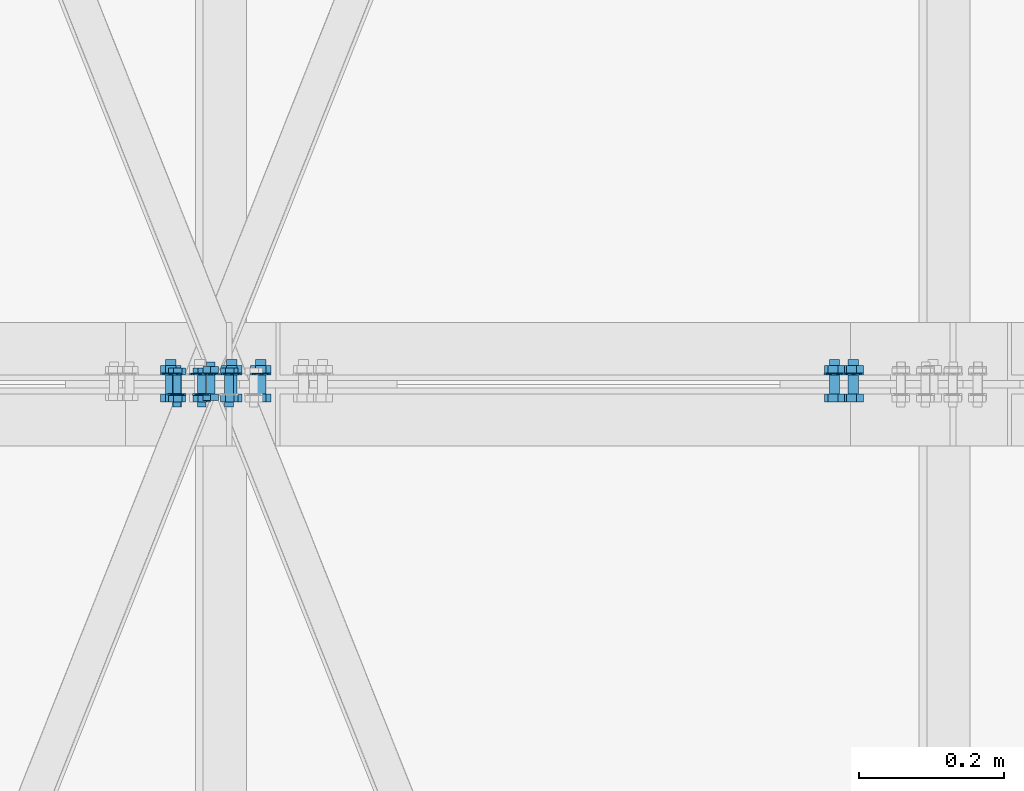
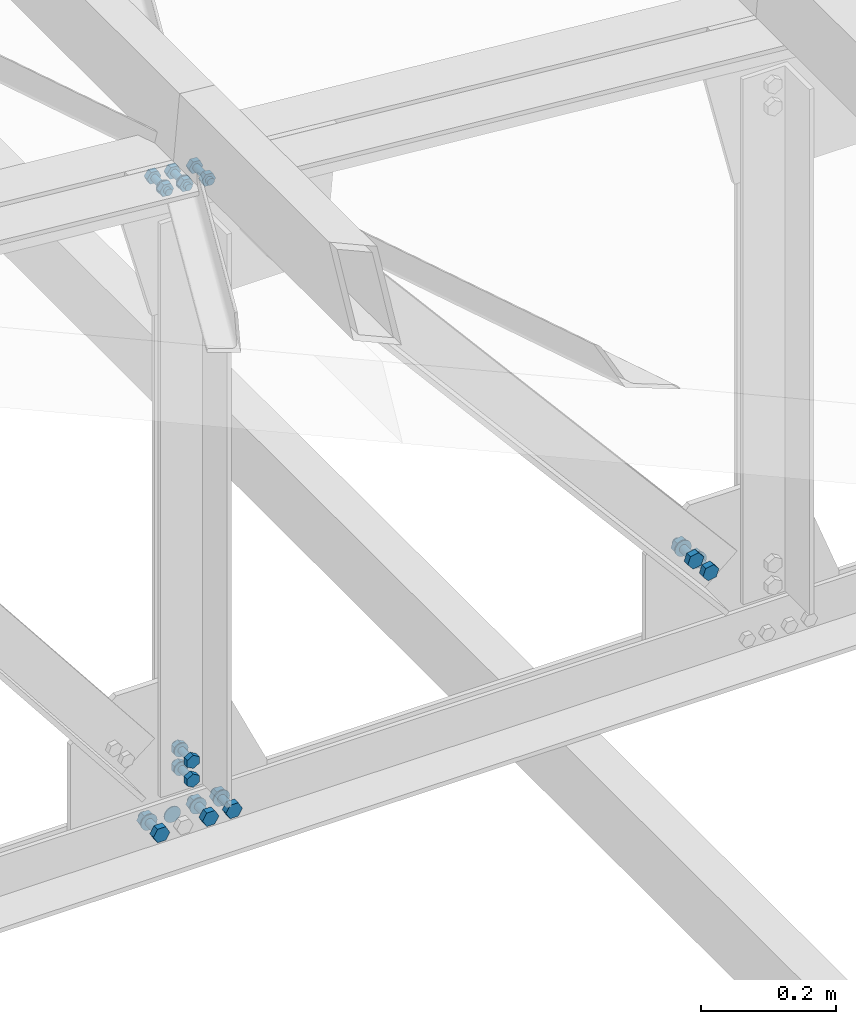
# One storey, part 108 of 251: 40 mechanical fasteners.
"""IFC4 building model written with IfcOpenShell, lengths in metres."""

from ifc_helpers import new_model, si_unit, frame, origin_with_axes, place, context, project, spatial, polyline, outline, extrude, type_object, element, save


model = new_model("IFC4")

# Units and contexts
model_context = context("Model", 3, precision=1e-05, world=origin_with_axes())
ifc_project = project(units=[si_unit("LENGTHUNIT", "METRE"), si_unit("AREAUNIT", "SQUARE_METRE"), si_unit("VOLUMEUNIT", "CUBIC_METRE"), si_unit("MASSUNIT", "GRAM", prefix="KILO"), si_unit("TIMEUNIT", "SECOND"), si_unit("PLANEANGLEUNIT", "RADIAN"), si_unit("SOLIDANGLEUNIT", "STERADIAN"), si_unit("THERMODYNAMICTEMPERATUREUNIT", "DEGREE_CELSIUS")], contexts=[model_context])

# Site, building, storey
placement_1 = place(None, origin_with_axes())
site = spatial("IfcSite", under=ifc_project, at=placement_1, Name="Italia", CompositionType="ELEMENT")
building = spatial("IfcBuilding", under=site, at=placement_1, Name="Deposito", CompositionType="ELEMENT")
storey = spatial("IfcBuildingStorey", under=building, at=placement_1, Name="Storey 0", CompositionType="ELEMENT", Elevation=0.0)

# Mechanical fasteners
mechanical_fastener_type_1 = type_object("IfcMechanicalFastenerType", Name="Reticolare 3", PredefinedType="BOLT")
placement_2 = place(placement_1, origin_with_axes())
mechanical_fastener_1_placement = place(placement_2, origin_with_axes())
element("IfcMechanicalFastener", 1, at=mechanical_fastener_1_placement, inside=storey, type_object=mechanical_fastener_type_1, Name="Reticolare 3", NominalDiameter=0.028, context=model_context, shape_type="SweptSolid", body=[
    extrude(outline(polyline([(0.0, 0.0), (-0.000476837, -0.00362349), (-0.00187492, -0.00699997), (-0.0041008, -0.00989962), (-0.00699997, -0.0121245), (-0.010376, -0.0135231), (-0.0139999, -0.0139999), (-0.0176239, -0.0135231), (-0.0209999, -0.0121245), (-0.0238991, -0.00989962), (-0.026125, -0.00699997), (-0.027523, -0.00362349), (-0.0279999, 0.0), (-0.027523, 0.00362349), (-0.026125, 0.00699997), (-0.0238991, 0.00989962), (-0.0209999, 0.0121245), (-0.0176239, 0.0135231), (-0.0139999, 0.0139999), (-0.010376, 0.0135231), (-0.00699997, 0.0121245), (-0.0041008, 0.00989962), (-0.00187492, 0.00699997), (-0.000476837, 0.00362349), (0.0, 0.0)])), frame((17.9996, 5.015, 5.009), z_axis=(0.0, -1.0, 0.0), x_axis=(1.0, 0.0, 0.0)), (0.0, 0.0, 1.0), 0.00199986),
])
mechanical_fastener_type_2 = type_object("IfcMechanicalFastenerType", Name="Reticolare 3", PredefinedType="BOLT")
mechanical_fastener_2_placement = place(placement_2, origin_with_axes())
element("IfcMechanicalFastener", 2, at=mechanical_fastener_2_placement, inside=storey, type_object=mechanical_fastener_type_2, Name="Reticolare 3", NominalDiameter=0.0139997, context=model_context, shape_type="SweptSolid", body=[
    extrude(outline(polyline([(0.0, 0.0), (-0.0139999, 0.0), (-0.0209999, 0.0121241), (-0.0139999, 0.0242486), (0.0, 0.0242486), (0.00699997, 0.0121241), (0.0, 0.0)])), frame((17.9526, 4.987, 4.99688), z_axis=(0.0, -1.0, 0.0), x_axis=(1.0, 0.0, 0.0)), (0.0, 0.0, 1.0), 0.0112),
])
mechanical_fastener_type_3 = type_object("IfcMechanicalFastenerType", Name="Reticolare 3", PredefinedType="BOLT")
mechanical_fastener_3_placement = place(placement_2, origin_with_axes())
element("IfcMechanicalFastener", 3, at=mechanical_fastener_3_placement, inside=storey, type_object=mechanical_fastener_type_3, Name="Reticolare 3", NominalDiameter=0.014, context=model_context, shape_type="SweptSolid", body=[
    extrude(outline(polyline([(0.0, 0.0), (-0.000238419, -0.0018115), (-0.000938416, -0.00349998), (-0.0020504, -0.00494957), (-0.00349998, -0.00606203), (-0.00518799, -0.00676155), (-0.00699997, -0.00699997), (-0.00881195, -0.00676155), (-0.0105, -0.00606203), (-0.0119495, -0.00494957), (-0.0130615, -0.00349998), (-0.0137615, -0.0018115), (-0.0139999, 0.0), (-0.0137615, 0.0018115), (-0.0130615, 0.00349998), (-0.0119495, 0.00494957), (-0.0105, 0.00606203), (-0.00881195, 0.00676155), (-0.00699997, 0.00699997), (-0.00518799, 0.00676155), (-0.00349998, 0.00606203), (-0.0020504, 0.00494957), (-0.000938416, 0.00349998), (-0.000238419, 0.0018115), (0.0, 0.0)])), frame((17.9526, 5.034, 5.009), z_axis=(0.0, -1.0, 0.0), x_axis=(1.0, 0.0, 0.0)), (0.0, 0.0, 1.0), 0.0469999),
])
mechanical_fastener_type_4 = type_object("IfcMechanicalFastenerType", Name="Reticolare 3", PredefinedType="BOLT")
mechanical_fastener_4_placement = place(placement_2, origin_with_axes())
element("IfcMechanicalFastener", 4, at=mechanical_fastener_4_placement, inside=storey, type_object=mechanical_fastener_type_4, Name="Reticolare 3", NominalDiameter=0.0139997, context=model_context, shape_type="SweptSolid", body=[
    extrude(outline(polyline([(0.0, 0.0), (-0.0139999, 0.0), (-0.0209999, 0.0121241), (-0.0139999, 0.0242486), (0.0, 0.0242486), (0.00699997, 0.0121241), (0.0, 0.0)])), frame((17.9526, 5.0262, 4.99688), z_axis=(0.0, -1.0, 0.0), x_axis=(1.0, 0.0, 0.0)), (0.0, 0.0, 1.0), 0.0112),
])
mechanical_fastener_type_5 = type_object("IfcMechanicalFastenerType", Name="Reticolare 3", PredefinedType="BOLT")
mechanical_fastener_5_placement = place(placement_2, origin_with_axes())
element("IfcMechanicalFastener", 5, at=mechanical_fastener_5_placement, inside=storey, type_object=mechanical_fastener_type_5, Name="Reticolare 3", NominalDiameter=0.028, context=model_context, shape_type="SweptSolid", body=[
    extrude(outline(polyline([(0.0, 0.0), (-0.000476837, -0.00362349), (-0.00187492, -0.00699997), (-0.0041008, -0.00989962), (-0.00699997, -0.0121245), (-0.010376, -0.0135231), (-0.0139999, -0.0139999), (-0.0176239, -0.0135231), (-0.0209999, -0.0121245), (-0.0238991, -0.00989962), (-0.026125, -0.00699997), (-0.027523, -0.00362349), (-0.0279999, 0.0), (-0.027523, 0.00362349), (-0.026125, 0.00699997), (-0.0238991, 0.00989962), (-0.0209999, 0.0121245), (-0.0176239, 0.0135231), (-0.0139999, 0.0139999), (-0.010376, 0.0135231), (-0.00699997, 0.0121245), (-0.0041008, 0.00989962), (-0.00187492, 0.00699997), (-0.000476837, 0.00362349), (0.0, 0.0)])), frame((17.9596, 5.015, 5.009), z_axis=(0.0, -1.0, 0.0), x_axis=(1.0, 0.0, 0.0)), (0.0, 0.0, 1.0), 0.00199986),
])
mechanical_fastener_type_6 = type_object("IfcMechanicalFastenerType", Name="Reticolare 3", PredefinedType="BOLT")
mechanical_fastener_6_placement = place(placement_2, origin_with_axes())
element("IfcMechanicalFastener", 6, at=mechanical_fastener_6_placement, inside=storey, type_object=mechanical_fastener_type_6, Name="Reticolare 3", NominalDiameter=0.0139997, context=model_context, shape_type="SweptSolid", body=[
    extrude(outline(polyline([(0.0, 0.0), (-0.0139999, 0.0), (-0.0209999, 0.0121241), (-0.0139999, 0.0242486), (0.0, 0.0242486), (0.00699997, 0.0121241), (0.0, 0.0)])), frame((18.0366, 4.987, 4.99688), z_axis=(0.0, -1.0, 0.0), x_axis=(1.0, 0.0, 0.0)), (0.0, 0.0, 1.0), 0.0112),
])
mechanical_fastener_type_7 = type_object("IfcMechanicalFastenerType", Name="Reticolare 3", PredefinedType="BOLT")
mechanical_fastener_7_placement = place(placement_2, origin_with_axes())
element("IfcMechanicalFastener", 7, at=mechanical_fastener_7_placement, inside=storey, type_object=mechanical_fastener_type_7, Name="Reticolare 3", NominalDiameter=0.014, context=model_context, shape_type="SweptSolid", body=[
    extrude(outline(polyline([(0.0, 0.0), (-0.000238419, -0.0018115), (-0.000938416, -0.00349998), (-0.0020504, -0.00494957), (-0.00349998, -0.00606203), (-0.00518799, -0.00676155), (-0.00699997, -0.00699997), (-0.00881195, -0.00676155), (-0.0105, -0.00606203), (-0.0119495, -0.00494957), (-0.0130615, -0.00349998), (-0.0137615, -0.0018115), (-0.0139999, 0.0), (-0.0137615, 0.0018115), (-0.0130615, 0.00349998), (-0.0119495, 0.00494957), (-0.0105, 0.00606203), (-0.00881195, 0.00676155), (-0.00699997, 0.00699997), (-0.00518799, 0.00676155), (-0.00349998, 0.00606203), (-0.0020504, 0.00494957), (-0.000938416, 0.00349998), (-0.000238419, 0.0018115), (0.0, 0.0)])), frame((18.0366, 5.034, 5.009), z_axis=(0.0, -1.0, 0.0), x_axis=(1.0, 0.0, 0.0)), (0.0, 0.0, 1.0), 0.0469999),
])
mechanical_fastener_type_8 = type_object("IfcMechanicalFastenerType", Name="Reticolare 3", PredefinedType="BOLT")
mechanical_fastener_8_placement = place(placement_2, origin_with_axes())
element("IfcMechanicalFastener", 8, at=mechanical_fastener_8_placement, inside=storey, type_object=mechanical_fastener_type_8, Name="Reticolare 3", NominalDiameter=0.0139997, context=model_context, shape_type="SweptSolid", body=[
    extrude(outline(polyline([(0.0, 0.0), (-0.0139999, 0.0), (-0.0209999, 0.0121241), (-0.0139999, 0.0242486), (0.0, 0.0242486), (0.00699997, 0.0121241), (0.0, 0.0)])), frame((18.0366, 5.0262, 4.99688), z_axis=(0.0, -1.0, 0.0), x_axis=(1.0, 0.0, 0.0)), (0.0, 0.0, 1.0), 0.0112),
])
mechanical_fastener_type_9 = type_object("IfcMechanicalFastenerType", Name="Reticolare 3", PredefinedType="BOLT")
mechanical_fastener_9_placement = place(placement_2, origin_with_axes())
element("IfcMechanicalFastener", 9, at=mechanical_fastener_9_placement, inside=storey, type_object=mechanical_fastener_type_9, Name="Reticolare 3", NominalDiameter=0.028, context=model_context, shape_type="SweptSolid", body=[
    extrude(outline(polyline([(0.0, 0.0), (-0.000476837, -0.00362349), (-0.00187492, -0.00699997), (-0.0041008, -0.00989962), (-0.00699997, -0.0121245), (-0.010376, -0.0135231), (-0.0139999, -0.0139999), (-0.0176239, -0.0135231), (-0.0209999, -0.0121245), (-0.0238991, -0.00989962), (-0.026125, -0.00699997), (-0.027523, -0.00362349), (-0.0279999, 0.0), (-0.027523, 0.00362349), (-0.026125, 0.00699997), (-0.0238991, 0.00989962), (-0.0209999, 0.0121245), (-0.0176239, 0.0135231), (-0.0139999, 0.0139999), (-0.010376, 0.0135231), (-0.00699997, 0.0121245), (-0.0041008, 0.00989962), (-0.00187492, 0.00699997), (-0.000476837, 0.00362349), (0.0, 0.0)])), frame((18.0436, 5.015, 5.009), z_axis=(0.0, -1.0, 0.0), x_axis=(1.0, 0.0, 0.0)), (0.0, 0.0, 1.0), 0.00199986),
])
mechanical_fastener_type_10 = type_object("IfcMechanicalFastenerType", Name="Reticolare 3", PredefinedType="BOLT")
mechanical_fastener_10_placement = place(placement_2, origin_with_axes())
element("IfcMechanicalFastener", 10, at=mechanical_fastener_10_placement, inside=storey, type_object=mechanical_fastener_type_10, Name="Reticolare 3", NominalDiameter=0.0139997, context=model_context, shape_type="SweptSolid", body=[
    extrude(outline(polyline([(0.0, 0.0), (-0.0139999, 0.0), (-0.0209999, 0.0121241), (-0.0139999, 0.0242486), (0.0, 0.0242486), (0.00699997, 0.0121241), (0.0, 0.0)])), frame((18.0766, 4.987, 4.99688), z_axis=(0.0, -1.0, 0.0), x_axis=(1.0, 0.0, 0.0)), (0.0, 0.0, 1.0), 0.0112),
])
mechanical_fastener_type_11 = type_object("IfcMechanicalFastenerType", Name="Reticolare 3", PredefinedType="BOLT")
mechanical_fastener_11_placement = place(placement_2, origin_with_axes())
element("IfcMechanicalFastener", 11, at=mechanical_fastener_11_placement, inside=storey, type_object=mechanical_fastener_type_11, Name="Reticolare 3", NominalDiameter=0.014, context=model_context, shape_type="SweptSolid", body=[
    extrude(outline(polyline([(0.0, 0.0), (-0.000238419, -0.0018115), (-0.000938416, -0.00349998), (-0.0020504, -0.00494957), (-0.00349998, -0.00606203), (-0.00518799, -0.00676155), (-0.00699997, -0.00699997), (-0.00881195, -0.00676155), (-0.0105, -0.00606203), (-0.0119495, -0.00494957), (-0.0130615, -0.00349998), (-0.0137615, -0.0018115), (-0.0139999, 0.0), (-0.0137615, 0.0018115), (-0.0130615, 0.00349998), (-0.0119495, 0.00494957), (-0.0105, 0.00606203), (-0.00881195, 0.00676155), (-0.00699997, 0.00699997), (-0.00518799, 0.00676155), (-0.00349998, 0.00606203), (-0.0020504, 0.00494957), (-0.000938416, 0.00349998), (-0.000238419, 0.0018115), (0.0, 0.0)])), frame((18.0766, 5.034, 5.009), z_axis=(0.0, -1.0, 0.0), x_axis=(1.0, 0.0, 0.0)), (0.0, 0.0, 1.0), 0.0469999),
])
mechanical_fastener_type_12 = type_object("IfcMechanicalFastenerType", Name="Reticolare 3", PredefinedType="BOLT")
mechanical_fastener_12_placement = place(placement_2, origin_with_axes())
element("IfcMechanicalFastener", 12, at=mechanical_fastener_12_placement, inside=storey, type_object=mechanical_fastener_type_12, Name="Reticolare 3", NominalDiameter=0.0139997, context=model_context, shape_type="SweptSolid", body=[
    extrude(outline(polyline([(0.0, 0.0), (-0.0139999, 0.0), (-0.0209999, 0.0121241), (-0.0139999, 0.0242486), (0.0, 0.0242486), (0.00699997, 0.0121241), (0.0, 0.0)])), frame((18.0766, 5.0262, 4.99688), z_axis=(0.0, -1.0, 0.0), x_axis=(1.0, 0.0, 0.0)), (0.0, 0.0, 1.0), 0.0112),
])
mechanical_fastener_type_13 = type_object("IfcMechanicalFastenerType", Name="Reticolare 3", PredefinedType="BOLT")
mechanical_fastener_13_placement = place(placement_2, origin_with_axes())
element("IfcMechanicalFastener", 13, at=mechanical_fastener_13_placement, inside=storey, type_object=mechanical_fastener_type_13, Name="Reticolare 3", NominalDiameter=0.028, context=model_context, shape_type="SweptSolid", body=[
    extrude(outline(polyline([(0.0, 0.0), (-0.000476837, -0.00362349), (-0.00187492, -0.00699997), (-0.0041008, -0.00989962), (-0.00699997, -0.0121245), (-0.010376, -0.0135231), (-0.0139999, -0.0139999), (-0.0176239, -0.0135231), (-0.0209999, -0.0121245), (-0.0238991, -0.00989962), (-0.026125, -0.00699997), (-0.027523, -0.00362349), (-0.0279999, 0.0), (-0.027523, 0.00362349), (-0.026125, 0.00699997), (-0.0238991, 0.00989962), (-0.0209999, 0.0121245), (-0.0176239, 0.0135231), (-0.0139999, 0.0139999), (-0.010376, 0.0135231), (-0.00699997, 0.0121245), (-0.0041008, 0.00989962), (-0.00187492, 0.00699997), (-0.000476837, 0.00362349), (0.0, 0.0)])), frame((18.0836, 5.015, 5.009), z_axis=(0.0, -1.0, 0.0), x_axis=(1.0, 0.0, 0.0)), (0.0, 0.0, 1.0), 0.00199986),
])
mechanical_fastener_type_14 = type_object("IfcMechanicalFastenerType", Name="Reticolare 3", PredefinedType="BOLT")
mechanical_fastener_14_placement = place(placement_2, origin_with_axes())
element("IfcMechanicalFastener", 14, at=mechanical_fastener_14_placement, inside=storey, type_object=mechanical_fastener_type_14, Name="Reticolare 3", NominalDiameter=0.0120001, context=model_context, shape_type="SweptSolid", body=[
    extrude(outline(polyline([(0.0, 0.0), (0.0, -0.0120001), (-0.0103931, -0.0180001), (-0.0207863, -0.0120001), (-0.0207863, 0.0), (-0.0103931, 0.00600004), (0.0, 0.0)])), frame((18.011, 4.987, 5.09253), z_axis=(0.0, -1.0, 0.0), x_axis=(1.0, 0.0, 0.0)), (0.0, 0.0, 1.0), 0.00960016),
])
mechanical_fastener_type_15 = type_object("IfcMechanicalFastenerType", Name="Reticolare 3", PredefinedType="BOLT")
mechanical_fastener_15_placement = place(placement_2, origin_with_axes())
element("IfcMechanicalFastener", 15, at=mechanical_fastener_15_placement, inside=storey, type_object=mechanical_fastener_type_15, Name="Reticolare 3", NominalDiameter=0.012, context=model_context, shape_type="SweptSolid", body=[
    extrude(outline(polyline([(0.0, 0.0), (-0.000204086, -0.00155306), (-0.000804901, -0.00299978), (-0.00175858, -0.00424242), (-0.00300026, -0.00519609), (-0.00444794, -0.00579548), (-0.00600052, -0.00600004), (-0.0075531, -0.00579548), (-0.00900078, -0.00519609), (-0.0102425, -0.00424242), (-0.0111961, -0.00299978), (-0.011797, -0.00155306), (-0.012001, 0.0), (-0.011797, 0.00155306), (-0.0111961, 0.00299978), (-0.0102425, 0.00424242), (-0.00900078, 0.00519609), (-0.0075531, 0.00579548), (-0.00600052, 0.00600004), (-0.00444794, 0.00579548), (-0.00300026, 0.00519609), (-0.00175858, 0.00424242), (-0.000804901, 0.00299978), (-0.000204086, 0.00155306), (0.0, 0.0)])), frame((18.0066, 5.031, 5.08653), z_axis=(0.0, -1.0, 0.0), x_axis=(1.0, 0.0, 0.0)), (0.0, 0.0, 1.0), 0.0440001),
])
mechanical_fastener_type_16 = type_object("IfcMechanicalFastenerType", Name="Reticolare 3", PredefinedType="BOLT")
mechanical_fastener_16_placement = place(placement_2, origin_with_axes())
element("IfcMechanicalFastener", 16, at=mechanical_fastener_16_placement, inside=storey, type_object=mechanical_fastener_type_16, Name="Reticolare 3", NominalDiameter=0.0120001, context=model_context, shape_type="SweptSolid", body=[
    extrude(outline(polyline([(0.0, 0.0), (0.0, -0.0120001), (-0.0103931, -0.0180001), (-0.0207863, -0.0120001), (-0.0207863, 0.0), (-0.0103931, 0.00600004), (0.0, 0.0)])), frame((18.011, 5.0246, 5.09253), z_axis=(0.0, -1.0, 0.0), x_axis=(1.0, 0.0, 0.0)), (0.0, 0.0, 1.0), 0.00960016),
])
mechanical_fastener_type_17 = type_object("IfcMechanicalFastenerType", Name="Reticolare 3", PredefinedType="BOLT")
mechanical_fastener_17_placement = place(placement_2, origin_with_axes())
element("IfcMechanicalFastener", 17, at=mechanical_fastener_17_placement, inside=storey, type_object=mechanical_fastener_type_17, Name="Reticolare 3", NominalDiameter=0.024, context=model_context, shape_type="SweptSolid", body=[
    extrude(outline(polyline([(0.0, 0.0), (-0.000408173, -0.00310564), (-0.00160599, -0.00600004), (-0.00351334, -0.00848532), (-0.00599861, -0.0103922), (-0.00889397, -0.011591), (-0.0119991, -0.0120001), (-0.0151043, -0.011591), (-0.0179996, -0.0103922), (-0.0204849, -0.00848532), (-0.0223923, -0.00600004), (-0.0235901, -0.00310564), (-0.0239983, 0.0), (-0.0235901, 0.00310564), (-0.0223923, 0.00600004), (-0.0204849, 0.00848532), (-0.0179996, 0.0103922), (-0.0151043, 0.011591), (-0.0119991, 0.0120001), (-0.00889397, 0.011591), (-0.00599861, 0.0103922), (-0.00351334, 0.00848532), (-0.00160599, 0.00600004), (-0.000408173, 0.00310564), (0.0, 0.0)])), frame((18.0126, 5.015, 5.08653), z_axis=(0.0, -1.0, 0.0), x_axis=(1.0, 0.0, 0.0)), (0.0, 0.0, 1.0), 0.00199986),
])
mechanical_fastener_type_18 = type_object("IfcMechanicalFastenerType", Name="Reticolare 3", PredefinedType="BOLT")
mechanical_fastener_18_placement = place(placement_2, origin_with_axes())
element("IfcMechanicalFastener", 18, at=mechanical_fastener_18_placement, inside=storey, type_object=mechanical_fastener_type_18, Name="Reticolare 3", NominalDiameter=0.0120001, context=model_context, shape_type="SweptSolid", body=[
    extrude(outline(polyline([(0.0, 0.0), (0.0, -0.0120001), (-0.0103931, -0.0180001), (-0.0207863, -0.0120001), (-0.0207863, 0.0), (-0.0103931, 0.00600004), (0.0, 0.0)])), frame((18.011, 4.987, 5.12653), z_axis=(0.0, -1.0, 0.0), x_axis=(1.0, 0.0, 0.0)), (0.0, 0.0, 1.0), 0.00960016),
])
mechanical_fastener_type_19 = type_object("IfcMechanicalFastenerType", Name="Reticolare 3", PredefinedType="BOLT")
mechanical_fastener_19_placement = place(placement_2, origin_with_axes())
element("IfcMechanicalFastener", 19, at=mechanical_fastener_19_placement, inside=storey, type_object=mechanical_fastener_type_19, Name="Reticolare 3", NominalDiameter=0.012, context=model_context, shape_type="SweptSolid", body=[
    extrude(outline(polyline([(0.0, 0.0), (-0.000204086, -0.00155306), (-0.000804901, -0.00299978), (-0.00175858, -0.00424242), (-0.00300026, -0.00519609), (-0.00444794, -0.00579548), (-0.00600052, -0.00600004), (-0.0075531, -0.00579548), (-0.00900078, -0.00519609), (-0.0102425, -0.00424242), (-0.0111961, -0.00299978), (-0.011797, -0.00155306), (-0.012001, 0.0), (-0.011797, 0.00155306), (-0.0111961, 0.00299978), (-0.0102425, 0.00424242), (-0.00900078, 0.00519609), (-0.0075531, 0.00579548), (-0.00600052, 0.00600004), (-0.00444794, 0.00579548), (-0.00300026, 0.00519609), (-0.00175858, 0.00424242), (-0.000804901, 0.00299978), (-0.000204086, 0.00155306), (0.0, 0.0)])), frame((18.0066, 5.031, 5.12053), z_axis=(0.0, -1.0, 0.0), x_axis=(1.0, 0.0, 0.0)), (0.0, 0.0, 1.0), 0.0440001),
])
mechanical_fastener_type_20 = type_object("IfcMechanicalFastenerType", Name="Reticolare 3", PredefinedType="BOLT")
mechanical_fastener_20_placement = place(placement_2, origin_with_axes())
element("IfcMechanicalFastener", 20, at=mechanical_fastener_20_placement, inside=storey, type_object=mechanical_fastener_type_20, Name="Reticolare 3", NominalDiameter=0.0120001, context=model_context, shape_type="SweptSolid", body=[
    extrude(outline(polyline([(0.0, 0.0), (0.0, -0.0120001), (-0.0103931, -0.0180001), (-0.0207863, -0.0120001), (-0.0207863, 0.0), (-0.0103931, 0.00600004), (0.0, 0.0)])), frame((18.011, 5.0246, 5.12653), z_axis=(0.0, -1.0, 0.0), x_axis=(1.0, 0.0, 0.0)), (0.0, 0.0, 1.0), 0.00960016),
])
mechanical_fastener_type_21 = type_object("IfcMechanicalFastenerType", Name="Reticolare 3", PredefinedType="BOLT")
mechanical_fastener_21_placement = place(placement_2, origin_with_axes())
element("IfcMechanicalFastener", 21, at=mechanical_fastener_21_placement, inside=storey, type_object=mechanical_fastener_type_21, Name="Reticolare 3", NominalDiameter=0.024, context=model_context, shape_type="SweptSolid", body=[
    extrude(outline(polyline([(0.0, 0.0), (-0.000408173, -0.00310564), (-0.00160599, -0.00600004), (-0.00351334, -0.00848532), (-0.00599861, -0.0103922), (-0.00889397, -0.011591), (-0.0119991, -0.0120001), (-0.0151043, -0.011591), (-0.0179996, -0.0103922), (-0.0204849, -0.00848532), (-0.0223923, -0.00600004), (-0.0235901, -0.00310564), (-0.0239983, 0.0), (-0.0235901, 0.00310564), (-0.0223923, 0.00600004), (-0.0204849, 0.00848532), (-0.0179996, 0.0103922), (-0.0151043, 0.011591), (-0.0119991, 0.0120001), (-0.00889397, 0.011591), (-0.00599861, 0.0103922), (-0.00351334, 0.00848532), (-0.00160599, 0.00600004), (-0.000408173, 0.00310564), (0.0, 0.0)])), frame((18.0126, 5.015, 5.12053), z_axis=(0.0, -1.0, 0.0), x_axis=(1.0, 0.0, 0.0)), (0.0, 0.0, 1.0), 0.00199986),
])
mechanical_fastener_type_22 = type_object("IfcMechanicalFastenerType", Name="Reticolare 3", PredefinedType="BOLT")
mechanical_fastener_22_placement = place(placement_2, origin_with_axes())
element("IfcMechanicalFastener", 22, at=mechanical_fastener_22_placement, inside=storey, type_object=mechanical_fastener_type_22, Name="Reticolare 3", NominalDiameter=0.0139996, context=model_context, shape_type="SweptSolid", body=[
    extrude(outline(polyline([(0.0, 0.0), (-0.00905609, 0.0106759), (-0.00433922, 0.0238571), (0.00943565, 0.0263624), (0.0184917, 0.0156865), (0.0137749, 0.0025053), (0.0, 0.0)])), frame((18.8804, 4.987, 5.1407), z_axis=(0.0, -1.0, 0.0), x_axis=(1.0, 0.0, 0.0)), (0.0, 0.0, 1.0), 0.0112),
])
mechanical_fastener_type_23 = type_object("IfcMechanicalFastenerType", Name="Reticolare 3", PredefinedType="BOLT")
mechanical_fastener_23_placement = place(placement_2, origin_with_axes())
element("IfcMechanicalFastener", 23, at=mechanical_fastener_23_placement, inside=storey, type_object=mechanical_fastener_type_23, Name="Reticolare 3", NominalDiameter=0.014, context=model_context, shape_type="SweptSolid", body=[
    extrude(outline(polyline([(0.0, 0.0), (-0.000238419, -0.0018115), (-0.000938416, -0.00349998), (-0.0020504, -0.00494957), (-0.00349998, -0.00606203), (-0.00518799, -0.00676155), (-0.00699997, -0.00699997), (-0.00881195, -0.00676155), (-0.0105, -0.00606203), (-0.0119495, -0.00494957), (-0.0130615, -0.00349998), (-0.0137615, -0.0018115), (-0.0139999, 0.0), (-0.0137615, 0.0018115), (-0.0130615, 0.00349998), (-0.0119495, 0.00494957), (-0.0105, 0.00606203), (-0.00881195, 0.00676155), (-0.00699997, 0.00699997), (-0.00518799, 0.00676155), (-0.00349998, 0.00606203), (-0.0020504, 0.00494957), (-0.000938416, 0.00349998), (-0.000238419, 0.0018115), (0.0, 0.0)])), frame((18.8921, 5.034, 5.15388), z_axis=(0.0, -1.0, 0.0), x_axis=(1.0, 0.0, 0.0)), (0.0, 0.0, 1.0), 0.0469999),
])
mechanical_fastener_type_24 = type_object("IfcMechanicalFastenerType", Name="Reticolare 3", PredefinedType="BOLT")
mechanical_fastener_24_placement = place(placement_2, origin_with_axes())
element("IfcMechanicalFastener", 24, at=mechanical_fastener_24_placement, inside=storey, type_object=mechanical_fastener_type_24, Name="Reticolare 3", NominalDiameter=0.0139996, context=model_context, shape_type="SweptSolid", body=[
    extrude(outline(polyline([(0.0, 0.0), (-0.00905609, 0.0106759), (-0.00433922, 0.0238571), (0.00943565, 0.0263624), (0.0184917, 0.0156865), (0.0137749, 0.0025053), (0.0, 0.0)])), frame((18.8804, 5.0262, 5.1407), z_axis=(0.0, -1.0, 0.0), x_axis=(1.0, 0.0, 0.0)), (0.0, 0.0, 1.0), 0.0112),
])
mechanical_fastener_type_25 = type_object("IfcMechanicalFastenerType", Name="Reticolare 3", PredefinedType="BOLT")
mechanical_fastener_25_placement = place(placement_2, origin_with_axes())
element("IfcMechanicalFastener", 25, at=mechanical_fastener_25_placement, inside=storey, type_object=mechanical_fastener_type_25, Name="Reticolare 3", NominalDiameter=0.028, context=model_context, shape_type="SweptSolid", body=[
    extrude(outline(polyline([(0.0, 0.0), (-0.000476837, -0.00362349), (-0.00187492, -0.00699997), (-0.0041008, -0.00989962), (-0.00699997, -0.0121245), (-0.010376, -0.0135231), (-0.0139999, -0.0139999), (-0.0176239, -0.0135231), (-0.0209999, -0.0121245), (-0.0238991, -0.00989962), (-0.026125, -0.00699997), (-0.027523, -0.00362349), (-0.0279999, 0.0), (-0.027523, 0.00362349), (-0.026125, 0.00699997), (-0.0238991, 0.00989962), (-0.0209999, 0.0121245), (-0.0176239, 0.0135231), (-0.0139999, 0.0139999), (-0.010376, 0.0135231), (-0.00699997, 0.0121245), (-0.0041008, 0.00989962), (-0.00187492, 0.00699997), (-0.000476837, 0.00362349), (0.0, 0.0)])), frame((18.8991, 5.015, 5.15388), z_axis=(0.0, -1.0, 0.0), x_axis=(1.0, 0.0, 0.0)), (0.0, 0.0, 1.0), 0.00199986),
])
mechanical_fastener_type_26 = type_object("IfcMechanicalFastenerType", Name="Reticolare 3", PredefinedType="BOLT")
mechanical_fastener_26_placement = place(placement_2, origin_with_axes())
element("IfcMechanicalFastener", 26, at=mechanical_fastener_26_placement, inside=storey, type_object=mechanical_fastener_type_26, Name="Reticolare 3", NominalDiameter=0.013999, context=model_context, shape_type="SweptSolid", body=[
    extrude(outline(polyline([(0.0, 0.0), (-0.009058, 0.0106759), (-0.00433922, 0.0238571), (0.00943375, 0.0263624), (0.0184917, 0.0156865), (0.013773, 0.0025053), (0.0, 0.0)])), frame((18.8545, 4.987, 5.1712), z_axis=(0.0, -1.0, 0.0), x_axis=(1.0, 0.0, 0.0)), (0.0, 0.0, 1.0), 0.0112),
])
mechanical_fastener_type_27 = type_object("IfcMechanicalFastenerType", Name="Reticolare 3", PredefinedType="BOLT")
mechanical_fastener_27_placement = place(placement_2, origin_with_axes())
element("IfcMechanicalFastener", 27, at=mechanical_fastener_27_placement, inside=storey, type_object=mechanical_fastener_type_27, Name="Reticolare 3", NominalDiameter=0.014, context=model_context, shape_type="SweptSolid", body=[
    extrude(outline(polyline([(0.0, 0.0), (-0.000238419, -0.0018115), (-0.000938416, -0.00349998), (-0.0020504, -0.00494957), (-0.00349998, -0.00606203), (-0.00518799, -0.00676155), (-0.00699997, -0.00699997), (-0.00881195, -0.00676155), (-0.0105, -0.00606203), (-0.0119495, -0.00494957), (-0.0130615, -0.00349998), (-0.0137615, -0.0018115), (-0.0139999, 0.0), (-0.0137615, 0.0018115), (-0.0130615, 0.00349998), (-0.0119495, 0.00494957), (-0.0105, 0.00606203), (-0.00881195, 0.00676155), (-0.00699997, 0.00699997), (-0.00518799, 0.00676155), (-0.00349998, 0.00606203), (-0.0020504, 0.00494957), (-0.000938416, 0.00349998), (-0.000238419, 0.0018115), (0.0, 0.0)])), frame((18.8662, 5.034, 5.18438), z_axis=(0.0, -1.0, 0.0), x_axis=(1.0, 0.0, 0.0)), (0.0, 0.0, 1.0), 0.0469999),
])
mechanical_fastener_type_28 = type_object("IfcMechanicalFastenerType", Name="Reticolare 3", PredefinedType="BOLT")
mechanical_fastener_28_placement = place(placement_2, origin_with_axes())
element("IfcMechanicalFastener", 28, at=mechanical_fastener_28_placement, inside=storey, type_object=mechanical_fastener_type_28, Name="Reticolare 3", NominalDiameter=0.013999, context=model_context, shape_type="SweptSolid", body=[
    extrude(outline(polyline([(0.0, 0.0), (-0.009058, 0.0106759), (-0.00433922, 0.0238571), (0.00943375, 0.0263624), (0.0184917, 0.0156865), (0.013773, 0.0025053), (0.0, 0.0)])), frame((18.8545, 5.0262, 5.1712), z_axis=(0.0, -1.0, 0.0), x_axis=(1.0, 0.0, 0.0)), (0.0, 0.0, 1.0), 0.0112),
])
mechanical_fastener_type_29 = type_object("IfcMechanicalFastenerType", Name="Reticolare 3", PredefinedType="BOLT")
mechanical_fastener_29_placement = place(placement_2, origin_with_axes())
element("IfcMechanicalFastener", 29, at=mechanical_fastener_29_placement, inside=storey, type_object=mechanical_fastener_type_29, Name="Reticolare 3", NominalDiameter=0.028, context=model_context, shape_type="SweptSolid", body=[
    extrude(outline(polyline([(0.0, 0.0), (-0.000476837, -0.00362349), (-0.00187492, -0.00699997), (-0.0041008, -0.00989962), (-0.00699997, -0.0121245), (-0.010376, -0.0135231), (-0.0139999, -0.0139999), (-0.0176239, -0.0135231), (-0.0209999, -0.0121245), (-0.0238991, -0.00989962), (-0.026125, -0.00699997), (-0.027523, -0.00362349), (-0.0279999, 0.0), (-0.027523, 0.00362349), (-0.026125, 0.00699997), (-0.0238991, 0.00989962), (-0.0209999, 0.0121245), (-0.0176239, 0.0135231), (-0.0139999, 0.0139999), (-0.010376, 0.0135231), (-0.00699997, 0.0121245), (-0.0041008, 0.00989962), (-0.00187492, 0.00699997), (-0.000476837, 0.00362349), (0.0, 0.0)])), frame((18.8732, 5.015, 5.18438), z_axis=(0.0, -1.0, 0.0), x_axis=(1.0, 0.0, 0.0)), (0.0, 0.0, 1.0), 0.00199986),
])
mechanical_fastener_type_30 = type_object("IfcMechanicalFastenerType", Name="Reticolare 3", PredefinedType="BOLT")
mechanical_fastener_30_placement = place(placement_2, origin_with_axes())
element("IfcMechanicalFastener", 30, at=mechanical_fastener_30_placement, inside=storey, type_object=mechanical_fastener_type_30, Name="Reticolare 3", NominalDiameter=0.011999, context=model_context, shape_type="SweptSolid", body=[
    extrude(outline(polyline([(0.0, 0.0), (0.0119534, 0.00104618), (0.018837, -0.00878382), (0.0137653, -0.0196595), (0.00181198, -0.0207052), (-0.00507164, -0.0108757), (0.0, 0.0)])), frame((17.995, 5.013, 6.17882), z_axis=(0.0, 1.0, 0.0), x_axis=(-1.0, 0.0, 0.0)), (0.0, 0.0, 1.0), 0.00960016),
])
mechanical_fastener_type_31 = type_object("IfcMechanicalFastenerType", Name="Reticolare 3", PredefinedType="BOLT")
mechanical_fastener_31_placement = place(placement_2, origin_with_axes())
element("IfcMechanicalFastener", 31, at=mechanical_fastener_31_placement, inside=storey, type_object=mechanical_fastener_type_31, Name="Reticolare 3", NominalDiameter=0.012, context=model_context, shape_type="SweptSolid", body=[
    extrude(outline(polyline([(0.0, 0.0), (-0.000204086, -0.00155306), (-0.000804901, -0.00299978), (-0.00175858, -0.00424242), (-0.00300026, -0.00519609), (-0.00444794, -0.00579548), (-0.00600052, -0.00600004), (-0.0075531, -0.00579548), (-0.00900078, -0.00519609), (-0.0102425, -0.00424242), (-0.0111961, -0.00299978), (-0.011797, -0.00155306), (-0.012001, 0.0), (-0.011797, 0.00155306), (-0.0111961, 0.00299978), (-0.0102425, 0.00424242), (-0.00900078, 0.00519609), (-0.0075531, 0.00579548), (-0.00600052, 0.00600004), (-0.00444794, 0.00579548), (-0.00300026, 0.00519609), (-0.00175858, 0.00424242), (-0.000804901, 0.00299978), (-0.000204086, 0.00155306), (0.0, 0.0)])), frame((17.9821, 4.969, 6.16899), z_axis=(0.0, 1.0, 0.0), x_axis=(-1.0, 0.0, 0.0)), (0.0, 0.0, 1.0), 0.0440001),
])
mechanical_fastener_type_32 = type_object("IfcMechanicalFastenerType", Name="Reticolare 3", PredefinedType="BOLT")
mechanical_fastener_32_placement = place(placement_2, origin_with_axes())
element("IfcMechanicalFastener", 32, at=mechanical_fastener_32_placement, inside=storey, type_object=mechanical_fastener_type_32, Name="Reticolare 3", NominalDiameter=0.011999, context=model_context, shape_type="SweptSolid", body=[
    extrude(outline(polyline([(0.0, 0.0), (0.0119534, 0.00104618), (0.018837, -0.00878382), (0.0137653, -0.0196595), (0.00181198, -0.0207052), (-0.00507164, -0.0108757), (0.0, 0.0)])), frame((17.995, 4.9754, 6.17882), z_axis=(0.0, 1.0, 0.0), x_axis=(-1.0, 0.0, 0.0)), (0.0, 0.0, 1.0), 0.00960016),
])
mechanical_fastener_type_33 = type_object("IfcMechanicalFastenerType", Name="Reticolare 3", PredefinedType="BOLT")
mechanical_fastener_33_placement = place(placement_2, origin_with_axes())
element("IfcMechanicalFastener", 33, at=mechanical_fastener_33_placement, inside=storey, type_object=mechanical_fastener_type_33, Name="Reticolare 3", NominalDiameter=0.024, context=model_context, shape_type="SweptSolid", body=[
    extrude(outline(polyline([(0.0, 0.0), (-0.000408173, -0.00310564), (-0.00160599, -0.00600004), (-0.00351334, -0.00848532), (-0.00599861, -0.0103922), (-0.00889397, -0.011591), (-0.0119991, -0.0120001), (-0.0151043, -0.011591), (-0.0179996, -0.0103922), (-0.0204849, -0.00848532), (-0.0223923, -0.00600004), (-0.0235901, -0.00310564), (-0.0239983, 0.0), (-0.0235901, 0.00310564), (-0.0223923, 0.00600004), (-0.0204849, 0.00848532), (-0.0179996, 0.0103922), (-0.0151043, 0.011591), (-0.0119991, 0.0120001), (-0.00889397, 0.011591), (-0.00599861, 0.0103922), (-0.00351334, 0.00848532), (-0.00160599, 0.00600004), (-0.000408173, 0.00310564), (0.0, 0.0)])), frame((17.9761, 4.985, 6.16899), z_axis=(0.0, 1.0, 0.0), x_axis=(-1.0, 0.0, 0.0)), (0.0, 0.0, 1.0), 0.00199986),
])
mechanical_fastener_type_34 = type_object("IfcMechanicalFastenerType", Name="Reticolare 3", PredefinedType="BOLT")
mechanical_fastener_34_placement = place(placement_2, origin_with_axes())
element("IfcMechanicalFastener", 34, at=mechanical_fastener_34_placement, inside=storey, type_object=mechanical_fastener_type_34, Name="Reticolare 3", NominalDiameter=0.011999, context=model_context, shape_type="SweptSolid", body=[
    extrude(outline(polyline([(0.0, 0.0), (0.0119534, 0.0010457), (0.018837, -0.00878429), (0.0137653, -0.01966), (0.00181198, -0.0207057), (-0.00507164, -0.0108757), (0.0, 0.0)])), frame((17.9611, 5.013, 6.18179), z_axis=(0.0, 1.0, 0.0), x_axis=(-1.0, 0.0, 0.0)), (0.0, 0.0, 1.0), 0.00960016),
])
mechanical_fastener_type_35 = type_object("IfcMechanicalFastenerType", Name="Reticolare 3", PredefinedType="BOLT")
mechanical_fastener_35_placement = place(placement_2, origin_with_axes())
element("IfcMechanicalFastener", 35, at=mechanical_fastener_35_placement, inside=storey, type_object=mechanical_fastener_type_35, Name="Reticolare 3", NominalDiameter=0.012, context=model_context, shape_type="SweptSolid", body=[
    extrude(outline(polyline([(0.0, 0.0), (-0.000204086, -0.00155306), (-0.000804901, -0.00299978), (-0.00175858, -0.00424242), (-0.00300026, -0.00519609), (-0.00444794, -0.00579548), (-0.00600052, -0.00600004), (-0.0075531, -0.00579548), (-0.00900078, -0.00519609), (-0.0102425, -0.00424242), (-0.0111961, -0.00299978), (-0.011797, -0.00155306), (-0.012001, 0.0), (-0.011797, 0.00155306), (-0.0111961, 0.00299978), (-0.0102425, 0.00424242), (-0.00900078, 0.00519609), (-0.0075531, 0.00579548), (-0.00600052, 0.00600004), (-0.00444794, 0.00579548), (-0.00300026, 0.00519609), (-0.00175858, 0.00424242), (-0.000804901, 0.00299978), (-0.000204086, 0.00155306), (0.0, 0.0)])), frame((17.9482, 4.969, 6.17196), z_axis=(0.0, 1.0, 0.0), x_axis=(-1.0, 0.0, 0.0)), (0.0, 0.0, 1.0), 0.0440001),
])
mechanical_fastener_type_36 = type_object("IfcMechanicalFastenerType", Name="Reticolare 3", PredefinedType="BOLT")
mechanical_fastener_36_placement = place(placement_2, origin_with_axes())
element("IfcMechanicalFastener", 36, at=mechanical_fastener_36_placement, inside=storey, type_object=mechanical_fastener_type_36, Name="Reticolare 3", NominalDiameter=0.011999, context=model_context, shape_type="SweptSolid", body=[
    extrude(outline(polyline([(0.0, 0.0), (0.0119534, 0.0010457), (0.018837, -0.00878429), (0.0137653, -0.01966), (0.00181198, -0.0207057), (-0.00507164, -0.0108757), (0.0, 0.0)])), frame((17.9611, 4.9754, 6.18179), z_axis=(0.0, 1.0, 0.0), x_axis=(-1.0, 0.0, 0.0)), (0.0, 0.0, 1.0), 0.00960016),
])
mechanical_fastener_type_37 = type_object("IfcMechanicalFastenerType", Name="Reticolare 3", PredefinedType="BOLT")
mechanical_fastener_37_placement = place(placement_2, origin_with_axes())
element("IfcMechanicalFastener", 37, at=mechanical_fastener_37_placement, inside=storey, type_object=mechanical_fastener_type_37, Name="Reticolare 3", NominalDiameter=0.024, context=model_context, shape_type="SweptSolid", body=[
    extrude(outline(polyline([(0.0, 0.0), (-0.000408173, -0.00310564), (-0.00160599, -0.00600004), (-0.00351334, -0.00848532), (-0.00599861, -0.0103922), (-0.00889397, -0.011591), (-0.0119991, -0.0120001), (-0.0151043, -0.011591), (-0.0179996, -0.0103922), (-0.0204849, -0.00848532), (-0.0223923, -0.00600004), (-0.0235901, -0.00310564), (-0.0239983, 0.0), (-0.0235901, 0.00310564), (-0.0223923, 0.00600004), (-0.0204849, 0.00848532), (-0.0179996, 0.0103922), (-0.0151043, 0.011591), (-0.0119991, 0.0120001), (-0.00889397, 0.011591), (-0.00599861, 0.0103922), (-0.00351334, 0.00848532), (-0.00160599, 0.00600004), (-0.000408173, 0.00310564), (0.0, 0.0)])), frame((17.9422, 4.985, 6.17196), z_axis=(0.0, 1.0, 0.0), x_axis=(-1.0, 0.0, 0.0)), (0.0, 0.0, 1.0), 0.00199986),
])
mechanical_fastener_type_38 = type_object("IfcMechanicalFastenerType", Name="Reticolare 3", PredefinedType="BOLT")
mechanical_fastener_38_placement = place(placement_2, origin_with_axes())
element("IfcMechanicalFastener", 38, at=mechanical_fastener_38_placement, inside=storey, type_object=mechanical_fastener_type_38, Name="Reticolare 3", NominalDiameter=0.011999, context=model_context, shape_type="SweptSolid", body=[
    extrude(outline(polyline([(0.0, 0.0), (0.0119534, 0.0010457), (0.018837, -0.00878429), (0.0137653, -0.01966), (0.00181007, -0.0207057), (-0.00507164, -0.0108757), (0.0, 0.0)])), frame((18.0328, 5.013, 6.17551), z_axis=(0.0, 1.0, 0.0), x_axis=(-1.0, 0.0, 0.0)), (0.0, 0.0, 1.0), 0.00960016),
])
mechanical_fastener_type_39 = type_object("IfcMechanicalFastenerType", Name="Reticolare 3", PredefinedType="BOLT")
mechanical_fastener_39_placement = place(placement_2, origin_with_axes())
element("IfcMechanicalFastener", 39, at=mechanical_fastener_39_placement, inside=storey, type_object=mechanical_fastener_type_39, Name="Reticolare 3", NominalDiameter=0.012, context=model_context, shape_type="SweptSolid", body=[
    extrude(outline(polyline([(0.0, 0.0), (-0.000204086, -0.00155306), (-0.000804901, -0.00299978), (-0.00175858, -0.00424242), (-0.00300026, -0.00519609), (-0.00444794, -0.00579548), (-0.00600052, -0.00600004), (-0.0075531, -0.00579548), (-0.00900078, -0.00519609), (-0.0102425, -0.00424242), (-0.0111961, -0.00299978), (-0.011797, -0.00155306), (-0.012001, 0.0), (-0.011797, 0.00155306), (-0.0111961, 0.00299978), (-0.0102425, 0.00424242), (-0.00900078, 0.00519609), (-0.0075531, 0.00579548), (-0.00600052, 0.00600004), (-0.00444794, 0.00579548), (-0.00300026, 0.00519609), (-0.00175858, 0.00424242), (-0.000804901, 0.00299978), (-0.000204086, 0.00155306), (0.0, 0.0)])), frame((18.0199, 4.969, 6.16568), z_axis=(0.0, 1.0, 0.0), x_axis=(-1.0, 0.0, 0.0)), (0.0, 0.0, 1.0), 0.0440001),
])
mechanical_fastener_type_40 = type_object("IfcMechanicalFastenerType", Name="Reticolare 3", PredefinedType="BOLT")
mechanical_fastener_40_placement = place(placement_2, origin_with_axes())
element("IfcMechanicalFastener", 40, at=mechanical_fastener_40_placement, inside=storey, type_object=mechanical_fastener_type_40, Name="Reticolare 3", NominalDiameter=0.011999, context=model_context, shape_type="SweptSolid", body=[
    extrude(outline(polyline([(0.0, 0.0), (0.0119534, 0.0010457), (0.018837, -0.00878429), (0.0137653, -0.01966), (0.00181007, -0.0207057), (-0.00507164, -0.0108757), (0.0, 0.0)])), frame((18.0328, 4.9754, 6.17551), z_axis=(0.0, 1.0, 0.0), x_axis=(-1.0, 0.0, 0.0)), (0.0, 0.0, 1.0), 0.00960016),
])

save(model, "model.ifc")
